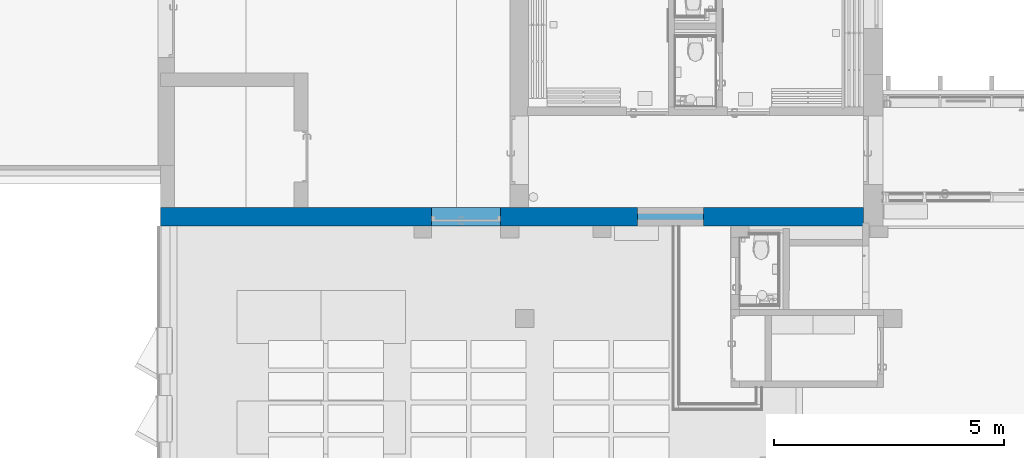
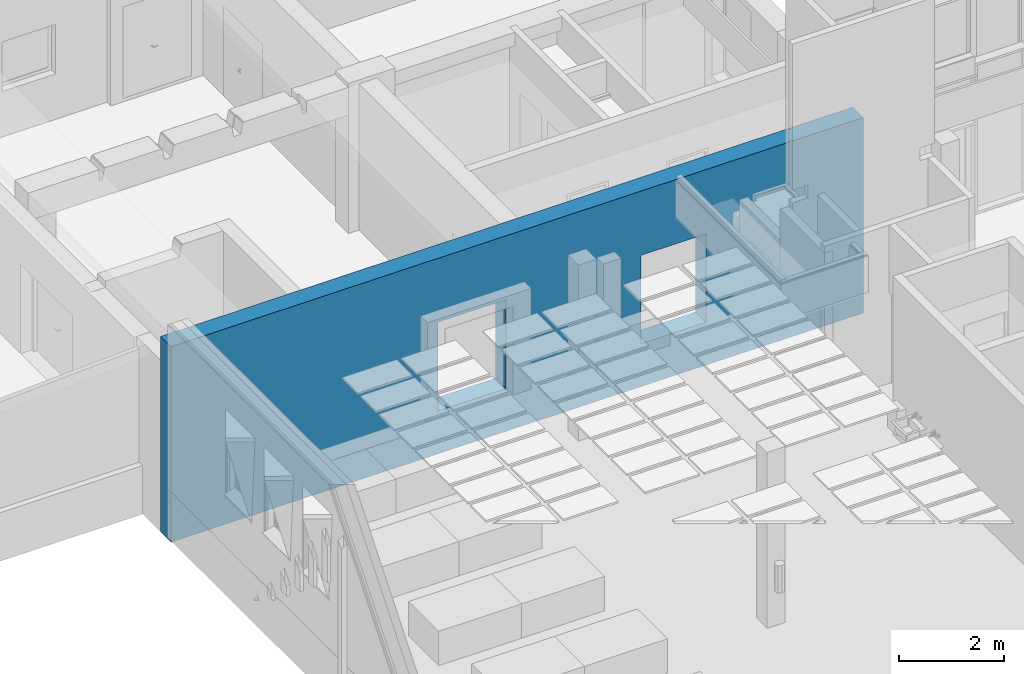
# One storey, part 114 of 301: 1 wall, 3 openings.
"""IFC2X3 building model written with IfcOpenShell, lengths in millimetres."""

from ifc_helpers import new_model, entity, si_unit, converted_unit, derived_unit, money_unit, direction, frame, origin_with_axes, place, context, subcontext, project, spatial, faceted_brep, material, type_object, element, save


model = new_model("IFC2X3")

# Units and contexts
model_context = context("Model", 3, precision=0.01, world=origin_with_axes(), true_north=direction((0.0, 1.0)))
body_context = subcontext(model_context, "Body", "Model", "MODEL_VIEW")
ifc_project = project(units=[si_unit("LENGTHUNIT", "METRE", prefix="MILLI"), si_unit("AREAUNIT", "SQUARE_METRE"), si_unit("VOLUMEUNIT", "CUBIC_METRE"), converted_unit("PLANEANGLEUNIT", "DEGREE", entity("IfcPlaneAngleMeasure", 0.0174532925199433), si_unit("PLANEANGLEUNIT", "RADIAN"), dimensions=[0, 0, 0, 0, 0, 0, 0]), money_unit("EUR"), converted_unit("TIMEUNIT", "Year", entity("IfcTimeMeasure", 31557600.0), si_unit("TIMEUNIT", "SECOND"), dimensions=[0, 0, 1, 0, 0, 0, 0]), si_unit("MASSUNIT", "GRAM", prefix="KILO"), si_unit("THERMODYNAMICTEMPERATUREUNIT", "DEGREE_CELSIUS"), si_unit("LUMINOUSINTENSITYUNIT", "LUMEN"), si_unit("ENERGYUNIT", "JOULE", prefix="MEGA"), derived_unit("THERMALCONDUCTANCEUNIT", [(si_unit("POWERUNIT", "WATT"), 1), (si_unit("LENGTHUNIT", "METRE"), -1), (si_unit("THERMODYNAMICTEMPERATUREUNIT", "KELVIN"), -1)]), derived_unit("SPECIFICHEATCAPACITYUNIT", [(si_unit("ENERGYUNIT", "JOULE"), 1), (si_unit("MASSUNIT", "GRAM", prefix="KILO"), -1), (si_unit("THERMODYNAMICTEMPERATUREUNIT", "KELVIN"), -1)]), derived_unit("MASSDENSITYUNIT", [(si_unit("MASSUNIT", "GRAM", prefix="KILO"), 1), (si_unit("VOLUMEUNIT", "CUBIC_METRE"), -1)])], contexts=[model_context])

# Site, building, storey
site_placement = place(None, frame((0.0, 0.0, 8650.0), z_axis=(0.0, 0.0, 1.0), x_axis=(1.0, 0.0, 0.0)))
site = spatial("IfcSite", under=ifc_project, at=site_placement, Name="43301:001:0844", CompositionType="ELEMENT")
building_placement = place(site_placement, origin_with_axes())
building = spatial("IfcBuilding", under=site, at=building_placement, Name="Kuressaare Ametikooli tuulikute mehaanikute õppekorpus", CompositionType="ELEMENT")
storey_placement = place(building_placement, origin_with_axes())
storey = spatial("IfcBuildingStorey", under=building, at=storey_placement, Name="1.korrus", CompositionType="ELEMENT", Elevation=0.0)

# Wall, openings
ifc_material = material(Name="GENEERILINE - KONSTRUKTRIOON")
wall_type = type_object("IfcWallType", Name="GENEERILINE - KONSTRUKTRIOON 400", PredefinedType="NOTDEFINED")
wall_placement = place(storey_placement, frame((103647.5122070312, 25783.06892395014, -1000.0), z_axis=(0.0, 0.0, 1.0), x_axis=(-1.0, 0.0, 0.0)))
wall = element("IfcWall", 1, at=wall_placement, inside=storey, type_object=wall_type, material=ifc_material, Name="VS-XX", context=body_context, shape_type="Brep", body=[
    faceted_brep([(5326.195725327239, 0.0, 3060.0), (5326.195725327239, -400.0000000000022, 3060.0), (3896.195725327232, -400.0000000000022, 3060.0), (3896.195725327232, 0.0, 3060.0), (5326.195725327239, -400.0000000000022, 1000.0), (5326.195725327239, 0.0, 1000.0), (15688.75576019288, -399.9999999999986, 4560.000000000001), (420.0000000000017, -399.9999999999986, 4560.000000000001), (420.0000000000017, -399.9999999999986, 0.0), (15688.75576019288, -400.0000000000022, 0.0), (15688.75576019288, -399.9999999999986, 4000.0), (8299.686604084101, -399.9999999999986, 3070.0), (9799.686604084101, -399.9999999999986, 3070.0), (9799.686604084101, -399.9999999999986, 1000.0), (8299.686604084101, -399.9999999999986, 1000.0), (3896.195725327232, -400.0000000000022, 1000.0), (3896.195725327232, 0.0, 1000.0), (15688.75576019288, 0.0, 4000.0), (15688.75576019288, 0.0, 0.0), (420.0000000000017, 0.0, 0.0), (420.0000000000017, 0.0, 4560.000000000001), (15688.75576019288, 0.0, 4560.000000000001), (8299.686604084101, 0.0, 1000.0), (9799.686604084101, 0.0, 1000.0), (9799.686604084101, 0.0, 3070.0), (8299.686604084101, 0.0, 3070.0)], [[[0, 1, 2, 3]], [[4, 1, 0, 5]], [[6, 7, 8, 9, 10], [11, 12, 13, 14], [4, 15, 2, 1]], [[3, 2, 15, 16]], [[17, 18, 19, 20, 21], [22, 23, 24, 25], [0, 3, 16, 5]], [[15, 4, 5, 16]], [[20, 7, 6, 21]], [[19, 8, 7, 20]], [[8, 19, 18, 9]], [[9, 18, 17, 21, 6, 10]], [[11, 25, 24, 12]], [[24, 23, 13, 12]], [[23, 22, 14, 13]], [[14, 22, 25, 11]]]),
])
opening_1_placement = place(wall_placement, frame((9049.686615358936, 0.0, 1000.0), z_axis=(0.0, 0.0, 1.0), x_axis=(1.0, 0.0, 0.0)))
element("IfcOpeningElement", 2, at=opening_1_placement, cuts=wall, Name="ava", context=body_context, shape_type="Brep", body=[
    faceted_brep([(-750.0, -99.99999999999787, 0.0), (-750.0, -99.99999999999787, 2070.0), (-750.0, 1.00000000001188, 2070.0), (-750.0, 1.00000000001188, 0.0), (-750.0, -401.0000000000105, 0.0), (-750.0, -401.0000000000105, 2070.0), (750.0, -99.99999999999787, 2070.0), (750.0, 1.00000000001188, 2070.0), (750.0, 1.000000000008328, 0.0), (750.0, -100.0000000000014, 0.0), (750.0, -401.000000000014, 0.0), (750.0, -401.0000000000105, 2070.0)], [[[0, 1, 2, 3]], [[1, 0, 4, 5]], [[1, 6, 7, 2]], [[8, 3, 2, 7]], [[9, 0, 3, 8]], [[0, 9, 10, 4]], [[5, 4, 10, 11]], [[6, 1, 5, 11]], [[6, 9, 8, 7]], [[9, 6, 11, 10]]]),
])
opening_2_placement = place(wall_placement, frame((9049.686604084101, 0.0, 1000.0), z_axis=(0.0, 0.0, 1.0), x_axis=(1.0, 0.0, 0.0)))
element("IfcOpeningElement", 3, at=opening_2_placement, cuts=wall, Name="TU10+5,EI120,dB", context=body_context, shape_type="Brep", body=[
    faceted_brep([(-750.0, -99.99999999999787, 0.0), (-750.0, -99.99999999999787, 2070.0), (-750.0, 1.000000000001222, 2070.0), (-750.0, 1.000000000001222, 0.0), (-750.0, -400.9999999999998, 0.0), (-750.0, -400.9999999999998, 2070.0), (750.0, -99.99999999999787, 2070.0), (750.0, 1.000000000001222, 2070.0), (750.0, -400.9999999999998, 2070.0), (750.0, 1.000000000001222, 0.0), (750.0, -99.99999999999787, 0.0), (750.0, -400.9999999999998, 0.0)], [[[0, 1, 2, 3]], [[1, 0, 4, 5]], [[6, 7, 2, 1, 5, 8]], [[7, 9, 3, 2]], [[0, 3, 9, 10, 11, 4]], [[5, 4, 11, 8]], [[6, 10, 9, 7]], [[10, 6, 8, 11]]]),
])
opening_3_placement = place(wall_placement, frame((4611.195725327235, 0.0, 1000.0), z_axis=(0.0, 0.0, 1.0), x_axis=(1.0, 0.0, 0.0)))
element("IfcOpeningElement", 4, at=opening_3_placement, cuts=wall, Name="ava", context=body_context, shape_type="Brep", body=[
    faceted_brep([(-715.0000000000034, -99.99999999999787, 0.0), (-715.0000000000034, -99.99999999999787, 2060.0), (-715.0000000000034, 1.000000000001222, 2060.0), (-715.0000000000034, 1.000000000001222, 0.0), (-715.0000000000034, -400.9999999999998, 0.0), (-715.0000000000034, -400.9999999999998, 2060.0), (715.0000000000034, -99.99999999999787, 2060.0), (715.0000000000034, 1.000000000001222, 2060.0), (715.0000000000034, 1.000000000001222, 0.0), (715.0000000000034, -99.99999999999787, 0.0), (715.0000000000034, -400.9999999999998, 0.0), (715.0000000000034, -400.9999999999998, 2060.0)], [[[0, 1, 2, 3]], [[1, 0, 4, 5]], [[1, 6, 7, 2]], [[8, 3, 2, 7]], [[9, 0, 3, 8]], [[0, 9, 10, 4]], [[5, 4, 10, 11]], [[6, 1, 5, 11]], [[6, 9, 8, 7]], [[9, 6, 11, 10]]]),
])

save(model, "model.ifc")
